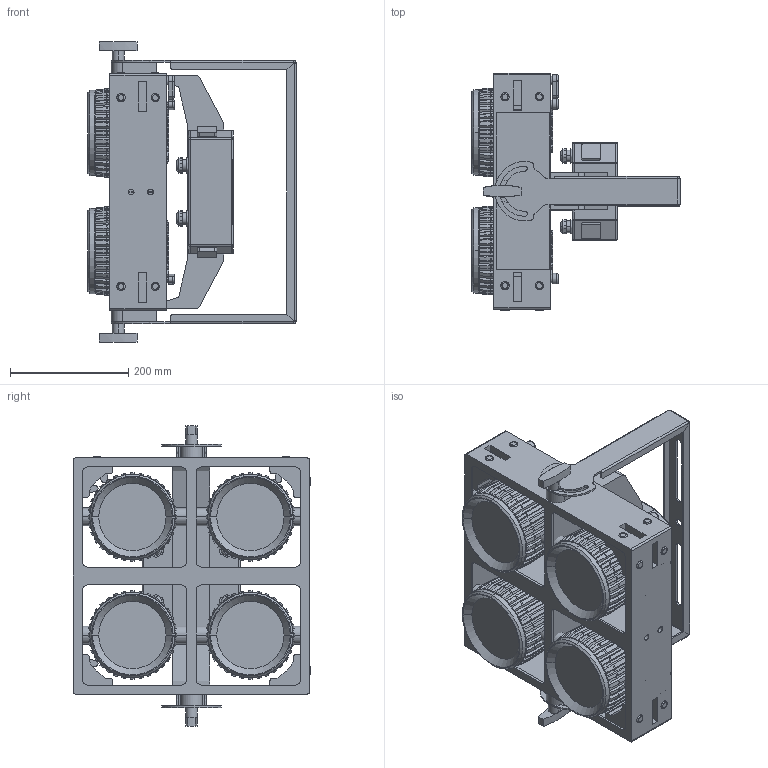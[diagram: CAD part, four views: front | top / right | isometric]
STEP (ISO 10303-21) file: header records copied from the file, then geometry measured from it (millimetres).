
FILE_DESCRIPTION((''),'2;1');
FILE_NAME('GLP-22006_ASM','2025-04-24T10:44:19',('LeovomKolke'),(''),'CREO PARAMETRIC BY PTC INC, 2024133','CREO PARAMETRIC BY PTC INC, 2024133','');
FILE_SCHEMA(('AUTOMOTIVE_DESIGN { 1 0 10303 214 1 1 1 1 }'));
Products named in the file (6): GLP-17078; GLP-17203; GLP-17202; GLP-17204; GLP-22005_ASM; GLP-22006_ASM
Assembly tree (7 placements, depth 3):
  GLP-22006_ASM
    GLP-17078
    GLP-22005_ASM
      GLP-17203  x2
      GLP-17202
      GLP-17204  x2
Bounding box: 352.5 x 402 x 509 mm (x, y, z)
Volume: 12832089.7 mm3; surface area: 1548539.2 mm2
Topology: 12 solids, 12 shells, 4957 faces, 13325 edges, 8595 vertices
Faces by surface type: plane 3483, cylinder 858, torus 296, cone 160, bspline 136, sphere 16, revolution 8
Entity records: 166315 total; most frequent: CARTESIAN_POINT 37838, ORIENTED_EDGE 26484, DIRECTION 23790, EDGE_CURVE 13242, VECTOR 9153, LINE 9153, VERTEX_POINT 8520, AXIS2_PLACEMENT_3D 7306
